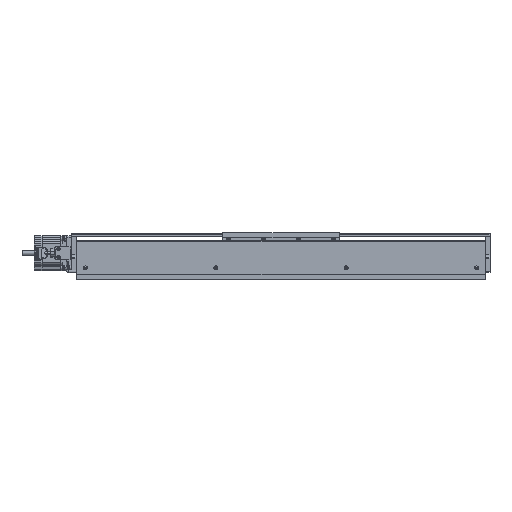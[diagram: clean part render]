
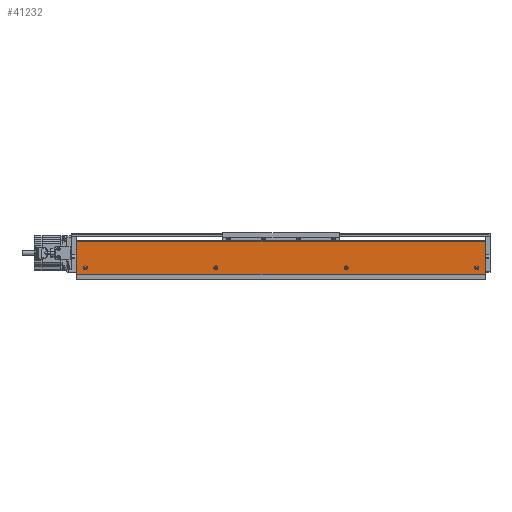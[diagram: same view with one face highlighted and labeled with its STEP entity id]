
A CAD part, front view. The second image highlights one B-rep face of the part: STEP entity #41232.
In plain terms, the highlighted planar face has unit normal (0, -1, 0).
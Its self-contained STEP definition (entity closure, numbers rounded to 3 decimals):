
#57 = LINE ( 'NONE', #208, #65593 ) ;
#208 = CARTESIAN_POINT ( 'NONE',  ( -351., -133., 8.5 ) ) ;
#276 = ORIENTED_EDGE ( 'NONE', *, *, #79082, .F. ) ;
#710 = ORIENTED_EDGE ( 'NONE', *, *, #72485, .T. ) ;
#1064 = AXIS2_PLACEMENT_3D ( 'NONE', #68962, #61600, #46270 ) ;
#1320 = CIRCLE ( 'NONE', #1064, 3.45 ) ;
#1488 = FACE_BOUND ( 'NONE', #24023, .T. ) ;
#1819 = VERTEX_POINT ( 'NONE', #82096 ) ;
#2908 = CARTESIAN_POINT ( 'NONE',  ( 336., -133., 19.5 ) ) ;
#3509 = CARTESIAN_POINT ( 'NONE',  ( -351., -133., 65.5 ) ) ;
#4163 = DIRECTION ( 'NONE',  ( -1., 0., 0. ) ) ;
#4941 = DIRECTION ( 'NONE',  ( 0., -1., 0. ) ) ;
#5579 = DIRECTION ( 'NONE',  ( -1., 0., 0. ) ) ;
#6834 = ORIENTED_EDGE ( 'NONE', *, *, #54021, .F. ) ;
#9311 = CARTESIAN_POINT ( 'NONE',  ( -336., -133., 19.5 ) ) ;
#10480 = EDGE_CURVE ( 'NONE', #37189, #34041, #65455, .T. ) ;
#11454 = ORIENTED_EDGE ( 'NONE', *, *, #74364, .F. ) ;
#12991 = DIRECTION ( 'NONE',  ( 0., -1., 0. ) ) ;
#13264 = EDGE_LOOP ( 'NONE', ( #6834, #31669 ) ) ;
#13334 = DIRECTION ( 'NONE',  ( -1., 0., 0. ) ) ;
#13493 = CIRCLE ( 'NONE', #41246, 3.45 ) ;
#14484 = CARTESIAN_POINT ( 'NONE',  ( -115.45, -133., 19.5 ) ) ;
#15212 = AXIS2_PLACEMENT_3D ( 'NONE', #9311, #46602, #16345 ) ;
#16345 = DIRECTION ( 'NONE',  ( -1., 0., 0. ) ) ;
#16675 = CARTESIAN_POINT ( 'NONE',  ( 351., -133., 65.5 ) ) ;
#16781 = CARTESIAN_POINT ( 'NONE',  ( 112., -133., 19.5 ) ) ;
#17557 = DIRECTION ( 'NONE',  ( 0., -1., 0. ) ) ;
#18003 = AXIS2_PLACEMENT_3D ( 'NONE', #29273, #12991, #13334 ) ;
#18736 = VECTOR ( 'NONE', #4163, 1000. ) ;
#24023 = EDGE_LOOP ( 'NONE', ( #93536, #11454 ) ) ;
#25359 = CARTESIAN_POINT ( 'NONE',  ( 336., -133., 19.5 ) ) ;
#26182 = EDGE_CURVE ( 'NONE', #32485, #1819, #1320, .T. ) ;
#26512 = ORIENTED_EDGE ( 'NONE', *, *, #10480, .F. ) ;
#26596 = VERTEX_POINT ( 'NONE', #42849 ) ;
#29273 = CARTESIAN_POINT ( 'NONE',  ( -112., -133., 19.5 ) ) ;
#29954 = CARTESIAN_POINT ( 'NONE',  ( -351., -133., 65.5 ) ) ;
#31669 = ORIENTED_EDGE ( 'NONE', *, *, #26182, .F. ) ;
#32485 = VERTEX_POINT ( 'NONE', #72914 ) ;
#32920 = DIRECTION ( 'NONE',  ( 0., -1., 0. ) ) ;
#33658 = CARTESIAN_POINT ( 'NONE',  ( 339.45, -133., 19.5 ) ) ;
#34041 = VERTEX_POINT ( 'NONE', #38631 ) ;
#34127 = EDGE_CURVE ( 'NONE', #47909, #45426, #13493, .T. ) ;
#36543 = AXIS2_PLACEMENT_3D ( 'NONE', #16781, #84742, #47038 ) ;
#36589 = LINE ( 'NONE', #59446, #80682 ) ;
#37084 = FACE_BOUND ( 'NONE', #13264, .T. ) ;
#37189 = VERTEX_POINT ( 'NONE', #16675 ) ;
#38115 = DIRECTION ( 'NONE',  ( 1., 0., 0. ) ) ;
#38631 = CARTESIAN_POINT ( 'NONE',  ( 351., -133., 8.5 ) ) ;
#39219 = AXIS2_PLACEMENT_3D ( 'NONE', #43359, #58369, #44350 ) ;
#40629 = DIRECTION ( 'NONE',  ( 0., -1., 0. ) ) ;
#41096 = ORIENTED_EDGE ( 'NONE', *, *, #48409, .F. ) ;
#41232 = ADVANCED_FACE ( 'NONE', ( #1488, #89714, #82532, #37084, #84920 ), #51366, .T. ) ;
#41246 = AXIS2_PLACEMENT_3D ( 'NONE', #63925, #32920, #64592 ) ;
#41974 = EDGE_CURVE ( 'NONE', #26596, #66600, #91882, .T. ) ;
#42059 = CARTESIAN_POINT ( 'NONE',  ( -332.55, -133., 19.5 ) ) ;
#42849 = CARTESIAN_POINT ( 'NONE',  ( 332.55, -133., 19.5 ) ) ;
#43359 = CARTESIAN_POINT ( 'NONE',  ( -351., -133., 66.5 ) ) ;
#44013 = EDGE_CURVE ( 'NONE', #67873, #72986, #36589, .T. ) ;
#44350 = DIRECTION ( 'NONE',  ( 0., 0., -1. ) ) ;
#45426 = VERTEX_POINT ( 'NONE', #42059 ) ;
#46270 = DIRECTION ( 'NONE',  ( -1., 0., 0. ) ) ;
#46602 = DIRECTION ( 'NONE',  ( 0., -1., 0. ) ) ;
#46809 = AXIS2_PLACEMENT_3D ( 'NONE', #51178, #4941, #5579 ) ;
#47038 = DIRECTION ( 'NONE',  ( -1., 0., 0. ) ) ;
#47909 = VERTEX_POINT ( 'NONE', #87293 ) ;
#48409 = EDGE_CURVE ( 'NONE', #66600, #26596, #80515, .T. ) ;
#48938 = ORIENTED_EDGE ( 'NONE', *, *, #44013, .T. ) ;
#49801 = EDGE_LOOP ( 'NONE', ( #48938, #710, #26512, #53666 ) ) ;
#50512 = VERTEX_POINT ( 'NONE', #14484 ) ;
#51178 = CARTESIAN_POINT ( 'NONE',  ( -112., -133., 19.5 ) ) ;
#51366 = PLANE ( 'NONE',  #39219 ) ;
#53666 = ORIENTED_EDGE ( 'NONE', *, *, #60417, .T. ) ;
#54021 = EDGE_CURVE ( 'NONE', #1819, #32485, #60101, .T. ) ;
#55817 = DIRECTION ( 'NONE',  ( -1., 0., 0. ) ) ;
#58169 = ORIENTED_EDGE ( 'NONE', *, *, #41974, .F. ) ;
#58255 = VECTOR ( 'NONE', #72944, 1000. ) ;
#58369 = DIRECTION ( 'NONE',  ( 0., -1., 0. ) ) ;
#59446 = CARTESIAN_POINT ( 'NONE',  ( -351., -133., 66.5 ) ) ;
#60101 = CIRCLE ( 'NONE', #36543, 3.45 ) ;
#60417 = EDGE_CURVE ( 'NONE', #37189, #67873, #77119, .T. ) ;
#61600 = DIRECTION ( 'NONE',  ( 0., -1., 0. ) ) ;
#63925 = CARTESIAN_POINT ( 'NONE',  ( -336., -133., 19.5 ) ) ;
#64592 = DIRECTION ( 'NONE',  ( -1., 0., 0. ) ) ;
#64594 = CARTESIAN_POINT ( 'NONE',  ( 351., -133., 66.5 ) ) ;
#65455 = LINE ( 'NONE', #64594, #58255 ) ;
#65593 = VECTOR ( 'NONE', #38115, 1000. ) ;
#66600 = VERTEX_POINT ( 'NONE', #33658 ) ;
#67873 = VERTEX_POINT ( 'NONE', #29954 ) ;
#68882 = EDGE_LOOP ( 'NONE', ( #58169, #41096 ) ) ;
#68962 = CARTESIAN_POINT ( 'NONE',  ( 112., -133., 19.5 ) ) ;
#72485 = EDGE_CURVE ( 'NONE', #72986, #34041, #57, .T. ) ;
#72914 = CARTESIAN_POINT ( 'NONE',  ( 115.45, -133., 19.5 ) ) ;
#72944 = DIRECTION ( 'NONE',  ( 0., 0., -1. ) ) ;
#72986 = VERTEX_POINT ( 'NONE', #91329 ) ;
#73296 = CIRCLE ( 'NONE', #46809, 3.45 ) ;
#74364 = EDGE_CURVE ( 'NONE', #45426, #47909, #87888, .T. ) ;
#76826 = ORIENTED_EDGE ( 'NONE', *, *, #84982, .F. ) ;
#77119 = LINE ( 'NONE', #3509, #18736 ) ;
#78633 = DIRECTION ( 'NONE',  ( -1., 0., 0. ) ) ;
#79082 = EDGE_CURVE ( 'NONE', #50512, #96134, #73296, .T. ) ;
#79629 = AXIS2_PLACEMENT_3D ( 'NONE', #2908, #17557, #55817 ) ;
#80515 = CIRCLE ( 'NONE', #79629, 3.45 ) ;
#80682 = VECTOR ( 'NONE', #97764, 1000. ) ;
#82096 = CARTESIAN_POINT ( 'NONE',  ( 108.55, -133., 19.5 ) ) ;
#82532 = FACE_BOUND ( 'NONE', #68882, .T. ) ;
#82772 = AXIS2_PLACEMENT_3D ( 'NONE', #25359, #40629, #78633 ) ;
#84742 = DIRECTION ( 'NONE',  ( 0., -1., 0. ) ) ;
#84920 = FACE_OUTER_BOUND ( 'NONE', #49801, .T. ) ;
#84982 = EDGE_CURVE ( 'NONE', #96134, #50512, #89217, .T. ) ;
#87293 = CARTESIAN_POINT ( 'NONE',  ( -339.45, -133., 19.5 ) ) ;
#87888 = CIRCLE ( 'NONE', #15212, 3.45 ) ;
#89217 = CIRCLE ( 'NONE', #18003, 3.45 ) ;
#89714 = FACE_BOUND ( 'NONE', #91212, .T. ) ;
#90646 = CARTESIAN_POINT ( 'NONE',  ( -108.55, -133., 19.5 ) ) ;
#91212 = EDGE_LOOP ( 'NONE', ( #276, #76826 ) ) ;
#91329 = CARTESIAN_POINT ( 'NONE',  ( -351., -133., 8.5 ) ) ;
#91882 = CIRCLE ( 'NONE', #82772, 3.45 ) ;
#93536 = ORIENTED_EDGE ( 'NONE', *, *, #34127, .F. ) ;
#96134 = VERTEX_POINT ( 'NONE', #90646 ) ;
#97764 = DIRECTION ( 'NONE',  ( 0., 0., -1. ) ) ;
